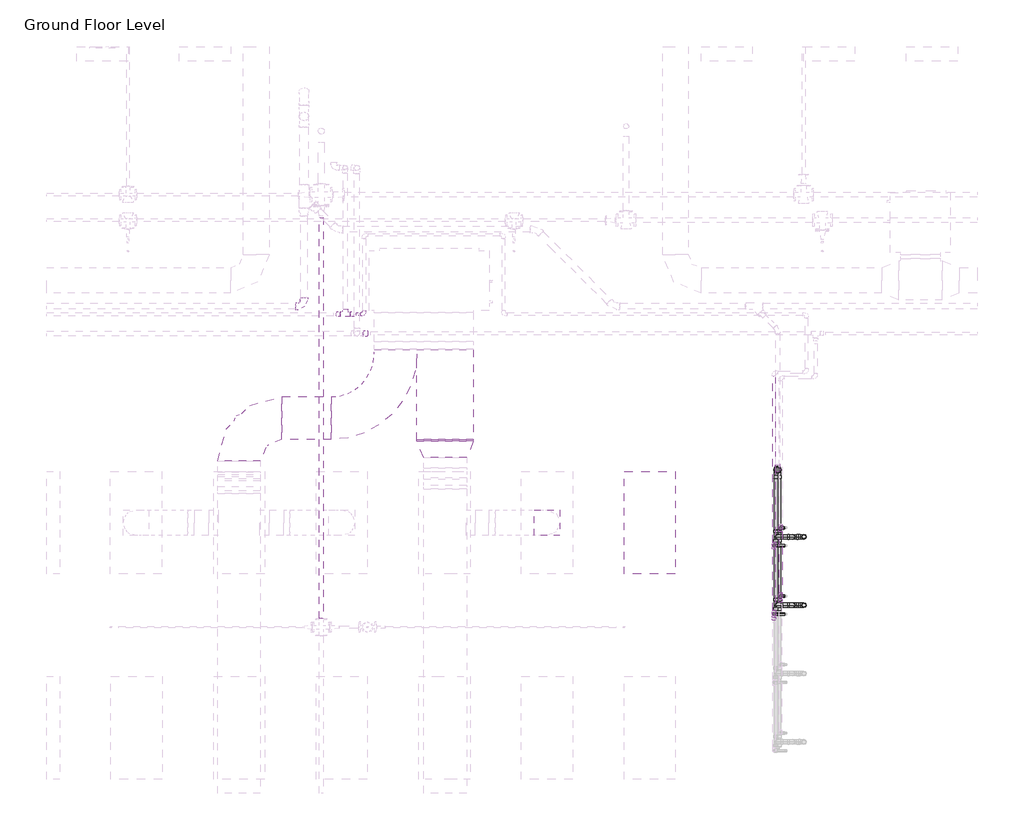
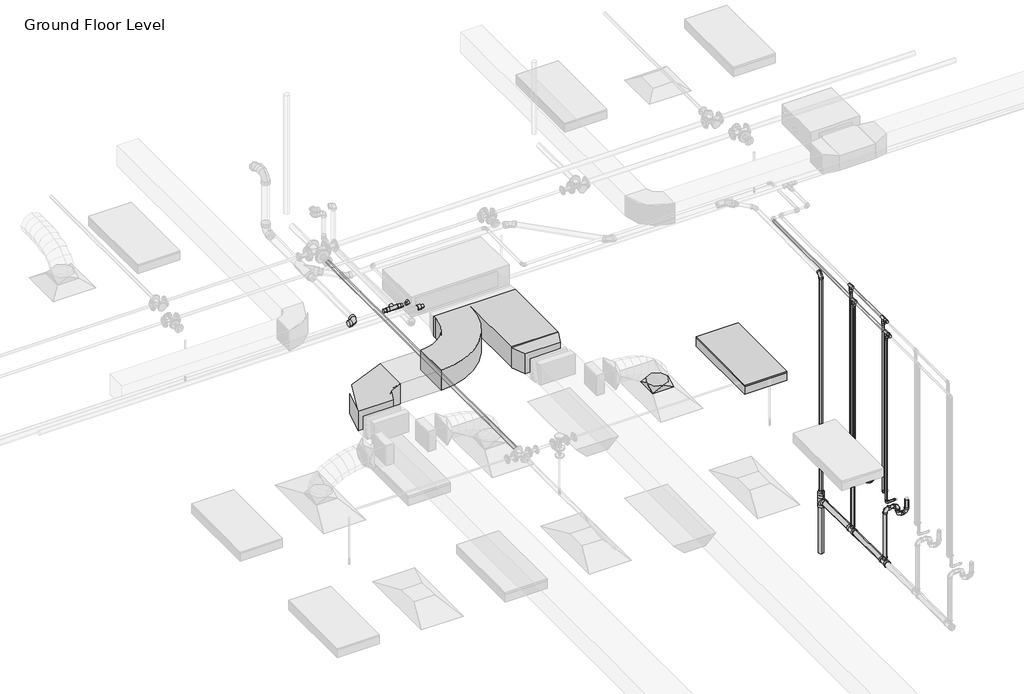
# One storey, part 50 of 68: 33 pipe fittings, 29 pipe segments, 4 duct fittings, 2 duct segments, 1 light fixture.
"""IFC4 building model written with IfcOpenShell, lengths in millimetres."""

from ifc_helpers import new_model, si_unit, point, frame, frame_2d, origin, place, context, project, spatial, polyline, circle_curve, trimmed, segment, composite_curve, outline, extrude, transform, mapped, element, save
from components import m_rectangular_elbow_radius_1_w_abe20169, m_rectangular_transition_angle_45_degree_0ac038db, m_rectangular_wye_smooth_radius_standard_737174da, m_rectangular_to_round_transition_angle_45_degree_641efff0, m_troffer_light_parabolic_rectangular1_0600x1200mm_4_lamp_86473d4a, m_bend_pvc_sch_40_dwv_standard_1e7bdcc1, m_bend_pvc_sch_40_dwv_standard_738aab8b, m_bend_pvc_sch_40_dwv_standard_33e831c1, m_reducer_pvc_sch_40_dwv_standard_d6f2da47, m_tee_reducing_sanitary_pvc_sch_40_dwv_standard_21d2848c, m_tee_reducing_sanitary_pvc_sch_40_dwv_standard_b574f8c1, standard_b266ab3f, standard_517a5a8d, standard_72b35c3b, standard_5079833c, standard_bbae78af, standard_a995ec02, standard_e954f56a, standard_e5aa6446, standard_77f9104c

model = new_model("IFC4")

# Units and contexts
model_context = context("Model", 3, world=origin())
ifc_project = project(units=[si_unit("LENGTHUNIT", "METRE", prefix="MILLI")], contexts=[model_context])

# Site, building, storey
site = spatial("IfcSite", under=ifc_project)
building = spatial("IfcBuilding", under=site)
storey = spatial("IfcBuildingStorey", under=building, Name="Ground Floor Level", Elevation=900.0)

# Duct fittings
placement = place(None, origin())
m_rectangular_elbow_radius_1_w_shape = m_rectangular_elbow_radius_1_w_abe20169(model_context)
element("IfcDuctFitting", 1, ObjectType="M_Rectangular Elbow - Radius : 1 W", at=placement, inside=storey, context=model_context, shape_type="MappedRepresentation", body=[
    mapped(m_rectangular_elbow_radius_1_w_shape, transform((-6939.6912607, 12459.4153535, 4107.1399598), x_axis=(-0.9999999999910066, 0.0, 4.2410714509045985e-06), y_axis=(0.0, -1.0, 0.0), z_axis=(4.2410714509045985e-06, 0.0, 0.9999999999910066))),
])
m_rectangular_transition_angle_45_degree_shape = m_rectangular_transition_angle_45_degree_0ac038db(model_context)
element("IfcDuctFitting", 2, ObjectType="M_Rectangular Transition - Angle : 45 Degree", at=placement, inside=storey, context=model_context, shape_type="MappedRepresentation", body=[
    mapped(m_rectangular_transition_angle_45_degree_shape, transform((-4528.6910789, 12192.414605, 4107.133239), x_axis=(0.0, -0.9999999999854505, 5.394345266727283e-06), y_axis=(1.0, 0.0, 0.0), z_axis=(0.0, 5.394345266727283e-06, 0.9999999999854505))),
])
m_rectangular_wye_smooth_radius_standard_shape = m_rectangular_wye_smooth_radius_standard_737174da(model_context)
element("IfcDuctFitting", 3, ObjectType="M_Rectangular Wye - Smooth Radius : Standard", at=placement, inside=storey, context=model_context, shape_type="MappedRepresentation", body=[
    mapped(m_rectangular_wye_smooth_radius_standard_shape, transform((-4653.6910789, 12459.4153535, 4107.1353795), x_axis=(0.0, -0.9999999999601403, -8.928571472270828e-06), y_axis=(1.0, 0.0, 0.0), z_axis=(0.0, -8.928571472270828e-06, 0.9999999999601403))),
])
m_rectangular_to_round_transition_angle_45_degree_shape = m_rectangular_to_round_transition_angle_45_degree_641efff0(model_context)
element("IfcDuctFitting", 4, ObjectType="M_Rectangular to Round Transition - Angle : 45 Degree", at=placement, inside=storey, context=model_context, shape_type="MappedRepresentation", body=[
    mapped(m_rectangular_to_round_transition_angle_45_degree_shape, transform((-3337.2327605, 11235.2153534, 3751.6), x_axis=(0.0, 0.0, 1.0), y_axis=(-1.0, 0.0, 0.0), z_axis=(0.0, -1.0, 0.0))),
])

# Duct segments
element("IfcDuctSegment", 5, ObjectType="Radius Elbows / Taps", at=placement, inside=storey, context=model_context, shape_type="SweptSolid", body=[
    extrude(outline(polyline([(-4859.6910789, 12209.4153535), (-4197.6910789, 12209.4153535), (-4197.6910789, 12192.414605), (-4859.6910789, 12192.414605), (-4859.6910789, 12209.4153535)])), frame((0.0, 0.0, 3957.1331473), z_axis=(0.0, 0.0, 1.0), x_axis=(1.0, 0.0, 0.0)), (0.0, 0.0, 1.0), 300.0),
])
element("IfcDuctSegment", 6, ObjectType="Radius Elbows / Taps", at=placement, inside=storey, context=model_context, shape_type="SweptSolid", body=[
    extrude(outline(polyline([(-5859.6910789, 12709.4153535), (-5859.6910789, 12209.4153535), (-6439.6912607, 12209.4153535), (-6439.6912607, 12709.4153535), (-5859.6910789, 12709.4153535)])), frame((0.0, 0.0, 3957.1353795), z_axis=(0.0, 0.0, 1.0), x_axis=(1.0, 0.0, 0.0)), (0.0, 0.0, 1.0), 300.0),
])

# Light fixture
m_troffer_light_parabolic_rectangular1_0600x1200mm_4_lamp_shape = m_troffer_light_parabolic_rectangular1_0600x1200mm_4_lamp_86473d4a(model_context)
element("IfcLightFixture", 7, ObjectType="M_Troffer Light - Parabolic Rectangular1 : 0600x1200mm(4 Lamp) - 277V 2", at=placement, inside=storey, context=model_context, shape_type="MappedRepresentation", body=[
    mapped(m_troffer_light_parabolic_rectangular1_0600x1200mm_4_lamp_shape, transform((-2196.6986926, 11253.918855, 3650.0), x_axis=(0.0, 1.0, 0.0), y_axis=(-1.0, 0.0, 0.0), z_axis=(0.0, 0.0, 1.0))),
])

# Pipe fittings
m_bend_pvc_sch_40_dwv_standard_shape = m_bend_pvc_sch_40_dwv_standard_1e7bdcc1(model_context)
element("IfcPipeFitting", 8, ObjectType="M_Bend - PVC - Sch 40 - DWV : Standard", at=placement, inside=storey, context=model_context, shape_type="MappedRepresentation", body=[
    mapped(m_bend_pvc_sch_40_dwv_standard_shape, transform((-642.2357232, 11855.5503966, 4093.773994), x_axis=(0.0, 0.0, 1.0), y_axis=(0.0, 1.0, 0.0), z_axis=(-1.0, 0.0, 0.0))),
])
m_bend_pvc_sch_40_dwv_standard_2_shape = m_bend_pvc_sch_40_dwv_standard_738aab8b(model_context)
element("IfcPipeFitting", 9, ObjectType="M_Bend - PVC - Sch 40 - DWV : Standard", at=placement, inside=storey, context=model_context, shape_type="MappedRepresentation", body=[
    mapped(m_bend_pvc_sch_40_dwv_standard_2_shape, transform((-463.6645494, 10271.1979139, 1370.0), x_axis=(-1.0, 0.0, 0.0), y_axis=(0.0, 0.0, 1.0), z_axis=(0.0, 1.0, 0.0))),
])
element("IfcPipeFitting", 10, ObjectType="M_Bend - PVC - Sch 40 - DWV : Standard", at=placement, inside=storey, context=model_context, shape_type="MappedRepresentation", body=[
    mapped(m_bend_pvc_sch_40_dwv_standard_2_shape, transform((-463.6645494, 10271.1979139, 1510.0), x_axis=(0.0, 0.0, 1.0), y_axis=(-1.0, 0.0, 0.0), z_axis=(0.0, -1.0, 0.0))),
])
element("IfcPipeFitting", 11, ObjectType="M_Bend - PVC - Sch 40 - DWV : Standard", at=placement, inside=storey, context=model_context, shape_type="MappedRepresentation", body=[
    mapped(m_bend_pvc_sch_40_dwv_standard_2_shape, transform((-463.6645494, 11071.1979139, 1370.0), x_axis=(-1.0, 0.0, 0.0), y_axis=(0.0, 0.0, 1.0), z_axis=(0.0, 1.0, 0.0))),
])
element("IfcPipeFitting", 12, ObjectType="M_Bend - PVC - Sch 40 - DWV : Standard", at=placement, inside=storey, context=model_context, shape_type="MappedRepresentation", body=[
    mapped(m_bend_pvc_sch_40_dwv_standard_2_shape, transform((-463.6645494, 11071.1979139, 1510.0), x_axis=(0.0, 0.0, 1.0), y_axis=(-1.0, 0.0, 0.0), z_axis=(0.0, -1.0, 0.0))),
])
element("IfcPipeFitting", 13, ObjectType="M_Bend - PVC - Sch 40 - DWV : Standard", at=placement, inside=storey, context=model_context, shape_type="MappedRepresentation", body=[
    mapped(m_bend_pvc_sch_40_dwv_standard_2_shape, transform((-333.6645494, 10271.1979139, 1370.0), x_axis=(1.0, 0.0, 0.0), y_axis=(0.0, 0.0, 1.0), z_axis=(0.0, -1.0, 0.0))),
])
element("IfcPipeFitting", 14, ObjectType="M_Bend - PVC - Sch 40 - DWV : Standard", at=placement, inside=storey, context=model_context, shape_type="MappedRepresentation", body=[
    mapped(m_bend_pvc_sch_40_dwv_standard_2_shape, transform((-333.6645494, 11071.1979139, 1370.0), x_axis=(1.0, 0.0, 0.0), y_axis=(0.0, 0.0, 1.0), z_axis=(0.0, -1.0, 0.0))),
])
element("IfcPipeFitting", 15, ObjectType="M_Bend - PVC - Sch 40 - DWV : Standard", at=placement, inside=storey, context=model_context, shape_type="MappedRepresentation", body=[
    mapped(m_bend_pvc_sch_40_dwv_standard_2_shape, transform((-642.2301761, 10271.1979139, 1510.0), x_axis=(-1.0, 0.0, 0.0), y_axis=(0.0, 0.0, -1.0), z_axis=(0.0, -1.0, 0.0))),
])
element("IfcPipeFitting", 16, ObjectType="M_Bend - PVC - Sch 40 - DWV : Standard", at=placement, inside=storey, context=model_context, shape_type="MappedRepresentation", body=[
    mapped(m_bend_pvc_sch_40_dwv_standard_2_shape, transform((-642.2301761, 11071.1979139, 1510.0), x_axis=(-1.0, 0.0, 0.0), y_axis=(0.0, 0.0, -1.0), z_axis=(0.0, -1.0, 0.0))),
])
m_bend_pvc_sch_40_dwv_standard_3_shape = m_bend_pvc_sch_40_dwv_standard_33e831c1(model_context)
element("IfcPipeFitting", 17, ObjectType="M_Bend - PVC - Sch 40 - DWV : Standard", at=placement, inside=storey, context=model_context, shape_type="MappedRepresentation", body=[
    mapped(m_bend_pvc_sch_40_dwv_standard_3_shape, transform((-6179.174125, 13768.8048932, 4156.9282537), x_axis=(0.9999500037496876, 0.0, 0.00999950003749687), y_axis=(-9.998500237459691e-05, 0.999950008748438, 0.009998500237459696), z_axis=(-0.009999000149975, -0.009999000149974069, 0.9999000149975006))),
])
m_reducer_pvc_sch_40_dwv_standard_shape = m_reducer_pvc_sch_40_dwv_standard_d6f2da47(model_context)
element("IfcPipeFitting", 18, ObjectType="M_Reducer - PVC - Sch 40 - DWV : Standard", at=placement, inside=storey, context=model_context, shape_type="MappedRepresentation", body=[
    mapped(m_reducer_pvc_sch_40_dwv_standard_shape, transform((-642.2301761, 11855.5442121, 776.9463422), x_axis=(0.0, 0.0, 1.0), y_axis=(0.0, 1.0, 0.0), z_axis=(-1.0, 0.0, 0.0))),
])
m_tee_reducing_sanitary_pvc_sch_40_dwv_standard_shape = m_tee_reducing_sanitary_pvc_sch_40_dwv_standard_21d2848c(model_context)
element("IfcPipeFitting", 19, ObjectType="M_Tee Reducing Sanitary - PVC - Sch 40 - DWV : Standard", at=placement, inside=storey, context=model_context, shape_type="MappedRepresentation", body=[
    mapped(m_tee_reducing_sanitary_pvc_sch_40_dwv_standard_shape, transform((-642.2301761, 10271.1979139, 711.098886), x_axis=(0.0, -0.9999500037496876, 0.009999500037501), y_axis=(0.0, -0.009999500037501, -0.9999500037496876), z_axis=(1.0, 0.0, 0.0))),
])
element("IfcPipeFitting", 20, ObjectType="M_Tee Reducing Sanitary - PVC - Sch 40 - DWV : Standard", at=placement, inside=storey, context=model_context, shape_type="MappedRepresentation", body=[
    mapped(m_tee_reducing_sanitary_pvc_sch_40_dwv_standard_shape, transform((-642.2301761, 11071.1979139, 703.098886), x_axis=(0.0, -0.9999500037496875, 0.00999950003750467), y_axis=(0.0, -0.00999950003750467, -0.9999500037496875), z_axis=(1.0, 0.0, 0.0))),
])
m_tee_reducing_sanitary_pvc_sch_40_dwv_standard_2_shape = m_tee_reducing_sanitary_pvc_sch_40_dwv_standard_b574f8c1(model_context)
element("IfcPipeFitting", 21, ObjectType="M_Tee Reducing Sanitary - PVC - Sch 40 - DWV : Standard", at=placement, inside=storey, context=model_context, shape_type="MappedRepresentation", body=[
    mapped(m_tee_reducing_sanitary_pvc_sch_40_dwv_standard_2_shape, transform((-642.2301761, 11855.5442121, 695.255423), x_axis=(0.0, 0.0, 1.0), y_axis=(0.0, 1.0, 0.0), z_axis=(-1.0, 0.0, 0.0))),
])
standard_shape = standard_b266ab3f(model_context)
element("IfcPipeFitting", 22, ObjectType="M_Elbow - CPVC - Sch 40 : Standard", at=placement, inside=storey, context=model_context, shape_type="MappedRepresentation", body=[
    mapped(standard_shape, transform((-607.2327605, 11175.5128345, 1690.0), x_axis=(-1.0, 0.0, 0.0), y_axis=(0.0, 0.0, 1.0), z_axis=(0.0, 1.0, 0.0))),
])
element("IfcPipeFitting", 23, ObjectType="M_Elbow - CPVC - Sch 40 : Standard", at=placement, inside=storey, context=model_context, shape_type="MappedRepresentation", body=[
    mapped(standard_shape, transform((-607.2327605, 10375.5128345, 1690.0), x_axis=(0.0, 0.0, -1.0), y_axis=(1.0, 0.0, 0.0), z_axis=(0.0, -1.0, 0.0))),
])
element("IfcPipeFitting", 24, ObjectType="M_Elbow - CPVC - Sch 40 : Standard", at=placement, inside=storey, context=model_context, shape_type="MappedRepresentation", body=[
    mapped(standard_shape, transform((-684.0671674, 10166.8829933, 1690.0), x_axis=(-1.0, 0.0, 0.0), y_axis=(0.0, 0.0, 1.0), z_axis=(0.0, 1.0, 0.0))),
])
element("IfcPipeFitting", 25, ObjectType="M_Elbow - CPVC - Sch 40 : Standard", at=placement, inside=storey, context=model_context, shape_type="MappedRepresentation", body=[
    mapped(standard_shape, transform((-684.0671674, 10966.8829933, 1690.0), x_axis=(-1.0, 0.0, 0.0), y_axis=(0.0, 0.0, 1.0), z_axis=(0.0, 1.0, 0.0))),
])
standard_2_shape = standard_517a5a8d(model_context)
element("IfcPipeFitting", 26, ObjectType="M_Elbow - CPVC - Sch 40 : Standard", at=placement, inside=storey, context=model_context, shape_type="MappedRepresentation", body=[
    mapped(standard_2_shape, transform((-5476.1871015, 13675.2153534, 4250.0), x_axis=(1.0, 0.0, 0.0), y_axis=(0.0, 1.0, 0.0), z_axis=(0.0, 0.0, 1.0))),
])
standard_3_shape = standard_72b35c3b(model_context)
element("IfcPipeFitting", 27, ObjectType="M_Tee - CPVC - Sch 40 : Standard", at=placement, inside=storey, context=model_context, shape_type="MappedRepresentation", body=[
    mapped(standard_3_shape, transform((-607.2327605, 11175.5128345, 4315.0), x_axis=(0.0, -1.0, 0.0), y_axis=(0.0, 0.0, 1.0), z_axis=(-1.0, 0.0, 0.0))),
])
element("IfcPipeFitting", 28, ObjectType="M_Tee - CPVC - Sch 40 : Standard", at=placement, inside=storey, context=model_context, shape_type="MappedRepresentation", body=[
    mapped(standard_3_shape, transform((-607.2327605, 10375.5128345, 4315.0), x_axis=(0.0, 1.0, 0.0), y_axis=(0.0, 0.0, 1.0), z_axis=(1.0, 0.0, 0.0))),
])
element("IfcPipeFitting", 29, ObjectType="M_Tee - CPVC - Sch 40 : Standard", at=placement, inside=storey, context=model_context, shape_type="MappedRepresentation", body=[
    mapped(standard_3_shape, transform((-684.0671674, 10166.8829933, 4250.0), x_axis=(0.0, -1.0, 0.0), y_axis=(0.0, 0.0, 1.0), z_axis=(-1.0, 0.0, 0.0))),
])
element("IfcPipeFitting", 30, ObjectType="M_Tee - CPVC - Sch 40 : Standard", at=placement, inside=storey, context=model_context, shape_type="MappedRepresentation", body=[
    mapped(standard_3_shape, transform((-684.0671674, 10966.8829933, 4250.0), x_axis=(0.0, -1.0, 0.0), y_axis=(0.0, 0.0, 1.0), z_axis=(-1.0, 0.0, 0.0))),
])
standard_4_shape = standard_5079833c(model_context)
element("IfcPipeFitting", 31, ObjectType="M_Coupling Reducing - CPVC - Sch 40 : Standard", at=placement, inside=storey, context=model_context, shape_type="MappedRepresentation", body=[
    mapped(standard_4_shape, transform((-5486.9943636, 13449.9865561, 4315.0), x_axis=(1.0, 0.0, 0.0), y_axis=(0.0, 1.0, 0.0), z_axis=(0.0, 0.0, 1.0))),
])
standard_5_shape = standard_bbae78af(model_context)
element("IfcPipeFitting", 32, ObjectType="M_Tee - CPVC - Sch 40 : Standard", at=placement, inside=storey, context=model_context, shape_type="MappedRepresentation", body=[
    mapped(standard_5_shape, transform((-5698.3060147, 13675.2153534, 4250.0), x_axis=(1.0, 0.0, 0.0), y_axis=(0.0, -1.0, 0.0), z_axis=(0.0, 0.0, -1.0))),
])
standard_6_shape = standard_a995ec02(model_context)
element("IfcPipeFitting", 33, ObjectType="M_Coupling Reducing - CPVC - Sch 40 : Standard", at=placement, inside=storey, context=model_context, shape_type="MappedRepresentation", body=[
    mapped(standard_6_shape, transform((-5757.0562147, 13675.2153534, 4250.0), x_axis=(-1.0, 0.0, 0.0), y_axis=(0.0, -1.0, 0.0), z_axis=(0.0, 0.0, 1.0))),
])
standard_7_shape = standard_e954f56a(model_context)
element("IfcPipeFitting", 34, ObjectType="M_Coupling Reducing - CPVC - Sch 40 : Standard", at=placement, inside=storey, context=model_context, shape_type="MappedRepresentation", body=[
    mapped(standard_7_shape, transform((-607.2327605, 10335.8126345, 4315.0), x_axis=(0.0, -1.0, 0.0), y_axis=(1.0, 0.0, 0.0), z_axis=(0.0, 0.0, 1.0))),
])
element("IfcPipeFitting", 35, ObjectType="M_Coupling Reducing - CPVC - Sch 40 : Standard", at=placement, inside=storey, context=model_context, shape_type="MappedRepresentation", body=[
    mapped(standard_7_shape, transform((-607.2327605, 10375.5128345, 4275.2998), x_axis=(0.0, 0.0, -1.0), y_axis=(0.0, -1.0, 0.0), z_axis=(-1.0, 0.0, 0.0))),
])
element("IfcPipeFitting", 36, ObjectType="M_Coupling Reducing - CPVC - Sch 40 : Standard", at=placement, inside=storey, context=model_context, shape_type="MappedRepresentation", body=[
    mapped(standard_7_shape, transform((-684.0671674, 10166.8829933, 4210.2998), x_axis=(0.0, 0.0, -1.0), y_axis=(-1.0, 0.0, 0.0), z_axis=(0.0, 1.0, 0.0))),
])
element("IfcPipeFitting", 37, ObjectType="M_Coupling Reducing - CPVC - Sch 40 : Standard", at=placement, inside=storey, context=model_context, shape_type="MappedRepresentation", body=[
    mapped(standard_7_shape, transform((-684.0671674, 10966.8829933, 4210.2998), x_axis=(0.0, 0.0, -1.0), y_axis=(-1.0, 0.0, 0.0), z_axis=(0.0, 1.0, 0.0))),
])
standard_8_shape = standard_e5aa6446(model_context)
element("IfcPipeFitting", 38, ObjectType="M_Coupling Reducing - CPVC - Sch 40 : Standard", at=placement, inside=storey, context=model_context, shape_type="MappedRepresentation", body=[
    mapped(standard_8_shape, transform((-607.2327605, 11175.5128345, 4275.2998), x_axis=(0.0, 0.0, -1.0), y_axis=(1.0, 0.0, 0.0), z_axis=(0.0, -1.0, 0.0))),
])
element("IfcPipeFitting", 39, ObjectType="M_Coupling Reducing - CPVC - Sch 40 : Standard", at=placement, inside=storey, context=model_context, shape_type="MappedRepresentation", body=[
    mapped(standard_8_shape, transform((-684.0671674, 10127.1827933, 4250.0), x_axis=(0.0, -1.0, 0.0), y_axis=(1.0, 0.0, 0.0), z_axis=(0.0, 0.0, 1.0))),
])
standard_9_shape = standard_77f9104c(model_context)
element("IfcPipeFitting", 40, ObjectType="M_Coupling Reducing - CPVC - Sch 40 : Standard", at=placement, inside=storey, context=model_context, shape_type="MappedRepresentation", body=[
    mapped(standard_9_shape, transform((-5639.5558147, 13675.2153534, 4250.0), x_axis=(1.0, 0.0, 0.0), y_axis=(0.0, 1.0, 0.0), z_axis=(0.0, 0.0, 1.0))),
])

# Pipe segments
element("IfcPipeSegment", 41, ObjectType="CPVC", at=placement, inside=storey, context=model_context, shape_type="SweptSolid", body=[
    extrude(outline(composite_curve([segment(trimmed(circle_curve(frame_2d((13449.9865561, 4315.0)), 30.1625), [point((13419.8240561, 4315.0))], [point((13449.9865561, 4345.1625))], False, "CARTESIAN"), True, "CONTINUOUS"), segment(trimmed(circle_curve(frame_2d((13449.9865561, 4315.0)), 30.1625), [point((13449.9865561, 4345.1625))], [point((13480.1490561, 4315.0))], False, "CARTESIAN"), True, "CONTINUOUS"), segment(trimmed(circle_curve(frame_2d((13449.9865561, 4315.0)), 30.1625), [point((13480.1490561, 4315.0))], [point((13449.9865561, 4284.8375))], False, "CARTESIAN"), True, "CONTINUOUS"), segment(trimmed(circle_curve(frame_2d((13449.9865561, 4315.0)), 30.1625), [point((13449.9865561, 4284.8375))], [point((13419.8240561, 4315.0))], False, "CARTESIAN"), True, "CONTINUOUS")], self_intersect=False)), frame((-5494.1963756, 0.0, 0.0), z_axis=(1.0, 0.0, 0.0), x_axis=(0.0, 1.0, 0.0)), (0.0, 0.0, 1.0), 7.202012),
])
element("IfcPipeSegment", 42, ObjectType="CPVC", at=placement, inside=storey, context=model_context, shape_type="SweptSolid", body=[
    extrude(outline(composite_curve([segment(trimmed(circle_curve(frame_2d((11175.5128345, 1690.0)), 13.335), [point((11188.8478345, 1690.0))], [point((11175.5128345, 1676.665))], False, "CARTESIAN"), True, "CONTINUOUS"), segment(trimmed(circle_curve(frame_2d((11175.5128345, 1690.0)), 13.335), [point((11175.5128345, 1676.665))], [point((11162.1778345, 1690.0))], False, "CARTESIAN"), True, "CONTINUOUS"), segment(trimmed(circle_curve(frame_2d((11175.5128345, 1690.0)), 13.335), [point((11162.1778345, 1690.0))], [point((11175.5128345, 1703.335))], False, "CARTESIAN"), True, "CONTINUOUS"), segment(trimmed(circle_curve(frame_2d((11175.5128345, 1690.0)), 13.335), [point((11175.5128345, 1703.335))], [point((11188.8478345, 1690.0))], False, "CARTESIAN"), True, "CONTINUOUS")], self_intersect=False)), frame((-571.9077105, 0.0, 0.0), z_axis=(1.0, 0.0, 0.0), x_axis=(0.0, 1.0, 0.0)), (0.0, 0.0, 1.0), 14.67495),
])
element("IfcPipeSegment", 43, ObjectType="CPVC", at=placement, inside=storey, context=model_context, shape_type="SweptSolid", body=[
    extrude(outline(composite_curve([segment(trimmed(circle_curve(frame_2d((-607.2327605, 11175.5128345)), 13.335), [point((-620.5677605, 11175.5128345))], [point((-607.2327605, 11188.8478345))], False, "CARTESIAN"), True, "CONTINUOUS"), segment(trimmed(circle_curve(frame_2d((-607.2327605, 11175.5128345)), 13.335), [point((-607.2327605, 11188.8478345))], [point((-593.8977605, 11175.5128345))], False, "CARTESIAN"), True, "CONTINUOUS"), segment(trimmed(circle_curve(frame_2d((-607.2327605, 11175.5128345)), 13.335), [point((-593.8977605, 11175.5128345))], [point((-607.2327605, 11162.1778345))], False, "CARTESIAN"), True, "CONTINUOUS"), segment(trimmed(circle_curve(frame_2d((-607.2327605, 11175.5128345)), 13.335), [point((-607.2327605, 11162.1778345))], [point((-620.5677605, 11175.5128345))], False, "CARTESIAN"), True, "CONTINUOUS")], self_intersect=False)), frame((0.0, 0.0, 1725.32505), z_axis=(0.0, 0.0, 1.0), x_axis=(1.0, 0.0, 0.0)), (0.0, 0.0, 1.0), 2492.82475),
])
element("IfcPipeSegment", 44, ObjectType="CPVC", at=placement, inside=storey, context=model_context, shape_type="SweptSolid", body=[
    extrude(outline(composite_curve([segment(trimmed(circle_curve(frame_2d((10375.5128345, 1690.0)), 13.335), [point((10362.1778345, 1690.0))], [point((10375.5128345, 1703.335))], False, "CARTESIAN"), True, "CONTINUOUS"), segment(trimmed(circle_curve(frame_2d((10375.5128345, 1690.0)), 13.335), [point((10375.5128345, 1703.335))], [point((10388.8478345, 1690.0))], False, "CARTESIAN"), True, "CONTINUOUS"), segment(trimmed(circle_curve(frame_2d((10375.5128345, 1690.0)), 13.335), [point((10388.8478345, 1690.0))], [point((10375.5128345, 1676.665))], False, "CARTESIAN"), True, "CONTINUOUS"), segment(trimmed(circle_curve(frame_2d((10375.5128345, 1690.0)), 13.335), [point((10375.5128345, 1676.665))], [point((10362.1778345, 1690.0))], False, "CARTESIAN"), True, "CONTINUOUS")], self_intersect=False)), frame((-571.9077105, 0.0, 0.0), z_axis=(1.0, 0.0, 0.0), x_axis=(0.0, 1.0, 0.0)), (0.0, 0.0, 1.0), 14.67495),
])
element("IfcPipeSegment", 45, ObjectType="CPVC", at=placement, inside=storey, context=model_context, shape_type="SweptSolid", body=[
    extrude(outline(composite_curve([segment(trimmed(circle_curve(frame_2d((-607.2327605, 10375.5128345)), 13.335), [point((-593.8977605, 10375.5128345))], [point((-607.2327605, 10362.1778345))], False, "CARTESIAN"), True, "CONTINUOUS"), segment(trimmed(circle_curve(frame_2d((-607.2327605, 10375.5128345)), 13.335), [point((-607.2327605, 10362.1778345))], [point((-620.5677605, 10375.5128345))], False, "CARTESIAN"), True, "CONTINUOUS"), segment(trimmed(circle_curve(frame_2d((-607.2327605, 10375.5128345)), 13.335), [point((-620.5677605, 10375.5128345))], [point((-607.2327605, 10388.8478345))], False, "CARTESIAN"), True, "CONTINUOUS"), segment(trimmed(circle_curve(frame_2d((-607.2327605, 10375.5128345)), 13.335), [point((-607.2327605, 10388.8478345))], [point((-593.8977605, 10375.5128345))], False, "CARTESIAN"), True, "CONTINUOUS")], self_intersect=False)), frame((0.0, 0.0, 1725.32505), z_axis=(0.0, 0.0, 1.0), x_axis=(1.0, 0.0, 0.0)), (0.0, 0.0, 1.0), 2492.82475),
])
element("IfcPipeSegment", 46, ObjectType="CPVC", at=placement, inside=storey, context=model_context, shape_type="SweptSolid", body=[
    extrude(outline(composite_curve([segment(trimmed(circle_curve(frame_2d((4315.0, -607.2327605)), 16.7005), [point((4315.0, -623.9332605))], [point((4298.2995, -607.2327605))], False, "CARTESIAN"), True, "CONTINUOUS"), segment(trimmed(circle_curve(frame_2d((4315.0, -607.2327605)), 16.7005), [point((4298.2995, -607.2327605))], [point((4315.0, -590.5322605))], False, "CARTESIAN"), True, "CONTINUOUS"), segment(trimmed(circle_curve(frame_2d((4315.0, -607.2327605)), 16.7005), [point((4315.0, -590.5322605))], [point((4331.7005, -607.2327605))], False, "CARTESIAN"), True, "CONTINUOUS"), segment(trimmed(circle_curve(frame_2d((4315.0, -607.2327605)), 16.7005), [point((4331.7005, -607.2327605))], [point((4315.0, -623.9332605))], False, "CARTESIAN"), True, "CONTINUOUS")], self_intersect=False)), frame((0.0, 10415.2130345, 0.0), z_axis=(0.0, 1.0, 0.0), x_axis=(0.0, 0.0, 1.0)), (0.0, 0.0, 1.0), 720.5996),
])
element("IfcPipeSegment", 47, ObjectType="CPVC", at=placement, inside=storey, context=model_context, shape_type="SweptSolid", body=[
    extrude(outline(composite_curve([segment(trimmed(circle_curve(frame_2d((10166.8829933, 1690.0)), 13.335), [point((10180.2179933, 1690.0))], [point((10166.8829933, 1676.665))], False, "CARTESIAN"), True, "CONTINUOUS"), segment(trimmed(circle_curve(frame_2d((10166.8829933, 1690.0)), 13.335), [point((10166.8829933, 1676.665))], [point((10153.5479933, 1690.0))], False, "CARTESIAN"), True, "CONTINUOUS"), segment(trimmed(circle_curve(frame_2d((10166.8829933, 1690.0)), 13.335), [point((10153.5479933, 1690.0))], [point((10166.8829933, 1703.335))], False, "CARTESIAN"), True, "CONTINUOUS"), segment(trimmed(circle_curve(frame_2d((10166.8829933, 1690.0)), 13.335), [point((10166.8829933, 1703.335))], [point((10180.2179933, 1690.0))], False, "CARTESIAN"), True, "CONTINUOUS")], self_intersect=False)), frame((-648.7421174, 0.0, 0.0), z_axis=(1.0, 0.0, 0.0), x_axis=(0.0, 1.0, 0.0)), (0.0, 0.0, 1.0), 91.5093569),
])
element("IfcPipeSegment", 48, ObjectType="CPVC", at=placement, inside=storey, context=model_context, shape_type="SweptSolid", body=[
    extrude(outline(composite_curve([segment(trimmed(circle_curve(frame_2d((-684.0671674, 10166.8829933)), 13.335), [point((-697.4021674, 10166.8829933))], [point((-684.0671674, 10180.2179933))], False, "CARTESIAN"), True, "CONTINUOUS"), segment(trimmed(circle_curve(frame_2d((-684.0671674, 10166.8829933)), 13.335), [point((-684.0671674, 10180.2179933))], [point((-670.7321674, 10166.8829933))], False, "CARTESIAN"), True, "CONTINUOUS"), segment(trimmed(circle_curve(frame_2d((-684.0671674, 10166.8829933)), 13.335), [point((-670.7321674, 10166.8829933))], [point((-684.0671674, 10153.5479933))], False, "CARTESIAN"), True, "CONTINUOUS"), segment(trimmed(circle_curve(frame_2d((-684.0671674, 10166.8829933)), 13.335), [point((-684.0671674, 10153.5479933))], [point((-697.4021674, 10166.8829933))], False, "CARTESIAN"), True, "CONTINUOUS")], self_intersect=False)), frame((0.0, 0.0, 1725.32505), z_axis=(0.0, 0.0, 1.0), x_axis=(1.0, 0.0, 0.0)), (0.0, 0.0, 1.0), 2427.82475),
])
element("IfcPipeSegment", 49, ObjectType="CPVC", at=placement, inside=storey, context=model_context, shape_type="SweptSolid", body=[
    extrude(outline(composite_curve([segment(trimmed(circle_curve(frame_2d((10966.8829933, 1690.0)), 13.335), [point((10980.2179933, 1690.0))], [point((10966.8829933, 1676.665))], False, "CARTESIAN"), True, "CONTINUOUS"), segment(trimmed(circle_curve(frame_2d((10966.8829933, 1690.0)), 13.335), [point((10966.8829933, 1676.665))], [point((10953.5479933, 1690.0))], False, "CARTESIAN"), True, "CONTINUOUS"), segment(trimmed(circle_curve(frame_2d((10966.8829933, 1690.0)), 13.335), [point((10953.5479933, 1690.0))], [point((10966.8829933, 1703.335))], False, "CARTESIAN"), True, "CONTINUOUS"), segment(trimmed(circle_curve(frame_2d((10966.8829933, 1690.0)), 13.335), [point((10966.8829933, 1703.335))], [point((10980.2179933, 1690.0))], False, "CARTESIAN"), True, "CONTINUOUS")], self_intersect=False)), frame((-648.7421174, 0.0, 0.0), z_axis=(1.0, 0.0, 0.0), x_axis=(0.0, 1.0, 0.0)), (0.0, 0.0, 1.0), 91.5093569),
])
element("IfcPipeSegment", 50, ObjectType="CPVC", at=placement, inside=storey, context=model_context, shape_type="SweptSolid", body=[
    extrude(outline(composite_curve([segment(trimmed(circle_curve(frame_2d((-684.0671674, 10966.8829933)), 13.335), [point((-697.4021674, 10966.8829933))], [point((-684.0671674, 10980.2179933))], False, "CARTESIAN"), True, "CONTINUOUS"), segment(trimmed(circle_curve(frame_2d((-684.0671674, 10966.8829933)), 13.335), [point((-684.0671674, 10980.2179933))], [point((-670.7321674, 10966.8829933))], False, "CARTESIAN"), True, "CONTINUOUS"), segment(trimmed(circle_curve(frame_2d((-684.0671674, 10966.8829933)), 13.335), [point((-670.7321674, 10966.8829933))], [point((-684.0671674, 10953.5479933))], False, "CARTESIAN"), True, "CONTINUOUS"), segment(trimmed(circle_curve(frame_2d((-684.0671674, 10966.8829933)), 13.335), [point((-684.0671674, 10953.5479933))], [point((-697.4021674, 10966.8829933))], False, "CARTESIAN"), True, "CONTINUOUS")], self_intersect=False)), frame((0.0, 0.0, 1725.32505), z_axis=(0.0, 0.0, 1.0), x_axis=(1.0, 0.0, 0.0)), (0.0, 0.0, 1.0), 2427.82475),
])
element("IfcPipeSegment", 51, ObjectType="CPVC", at=placement, inside=storey, context=model_context, shape_type="SweptSolid", body=[
    extrude(outline(composite_curve([segment(trimmed(circle_curve(frame_2d((4250.0, -684.0671674)), 16.7005), [point((4250.0, -667.3666674))], [point((4266.7005, -684.0671674))], False, "CARTESIAN"), True, "CONTINUOUS"), segment(trimmed(circle_curve(frame_2d((4250.0, -684.0671674)), 16.7005), [point((4266.7005, -684.0671674))], [point((4250.0, -700.7676674))], False, "CARTESIAN"), True, "CONTINUOUS"), segment(trimmed(circle_curve(frame_2d((4250.0, -684.0671674)), 16.7005), [point((4250.0, -700.7676674))], [point((4233.2995, -684.0671674))], False, "CARTESIAN"), True, "CONTINUOUS"), segment(trimmed(circle_curve(frame_2d((4250.0, -684.0671674)), 16.7005), [point((4233.2995, -684.0671674))], [point((4250.0, -667.3666674))], False, "CARTESIAN"), True, "CONTINUOUS")], self_intersect=False)), frame((0.0, 11006.5831933, 0.0), z_axis=(0.0, 1.0, 0.0), x_axis=(0.0, 0.0, 1.0)), (0.0, 0.0, 1.0), 1945.3696101),
])
element("IfcPipeSegment", 52, ObjectType="CPVC", at=placement, inside=storey, context=model_context, shape_type="SweptSolid", body=[
    extrude(outline(composite_curve([segment(trimmed(circle_curve(frame_2d((4250.0, -684.0671674)), 16.7005), [point((4250.0, -667.3666674))], [point((4266.7005, -684.0671674))], False, "CARTESIAN"), True, "CONTINUOUS"), segment(trimmed(circle_curve(frame_2d((4250.0, -684.0671674)), 16.7005), [point((4266.7005, -684.0671674))], [point((4250.0, -700.7676674))], False, "CARTESIAN"), True, "CONTINUOUS"), segment(trimmed(circle_curve(frame_2d((4250.0, -684.0671674)), 16.7005), [point((4250.0, -700.7676674))], [point((4233.2995, -684.0671674))], False, "CARTESIAN"), True, "CONTINUOUS"), segment(trimmed(circle_curve(frame_2d((4250.0, -684.0671674)), 16.7005), [point((4233.2995, -684.0671674))], [point((4250.0, -667.3666674))], False, "CARTESIAN"), True, "CONTINUOUS")], self_intersect=False)), frame((0.0, 10206.5831933, 0.0), z_axis=(0.0, 1.0, 0.0), x_axis=(0.0, 0.0, 1.0)), (0.0, 0.0, 1.0), 720.5996),
])
element("IfcPipeSegment", 53, ObjectType="CPVC", at=placement, inside=storey, context=model_context, shape_type="SweptSolid", body=[
    extrude(outline(composite_curve([segment(trimmed(circle_curve(frame_2d((13675.2153534, 4250.0)), 16.7005), [point((13658.5148534, 4250.0))], [point((13675.2153534, 4266.7005))], False, "CARTESIAN"), True, "CONTINUOUS"), segment(trimmed(circle_curve(frame_2d((13675.2153534, 4250.0)), 16.7005), [point((13675.2153534, 4266.7005))], [point((13691.9158534, 4250.0))], False, "CARTESIAN"), True, "CONTINUOUS"), segment(trimmed(circle_curve(frame_2d((13675.2153534, 4250.0)), 16.7005), [point((13691.9158534, 4250.0))], [point((13675.2153534, 4233.2995))], False, "CARTESIAN"), True, "CONTINUOUS"), segment(trimmed(circle_curve(frame_2d((13675.2153534, 4250.0)), 16.7005), [point((13675.2153534, 4233.2995))], [point((13658.5148534, 4250.0))], False, "CARTESIAN"), True, "CONTINUOUS")], self_intersect=False)), frame((-5567.3569397, 0.0, 0.0), z_axis=(1.0, 0.0, 0.0), x_axis=(0.0, 1.0, 0.0)), (0.0, 0.0, 1.0), 47.9072882),
])
element("IfcPipeSegment", 54, ObjectType="PVC - DWV", at=placement, inside=storey, context=model_context, shape_type="SweptSolid", body=[
    extrude(outline(composite_curve([segment(trimmed(circle_curve(frame_2d((0.0, -36.5125)), 36.5125), [point((36.5125, -36.5125))], [point((0.0, -73.025))], False, "CARTESIAN"), True, "CONTINUOUS"), segment(trimmed(circle_curve(frame_2d((0.0, -36.5125)), 36.5125), [point((0.0, -73.025))], [point((-36.5125, -36.5125))], False, "CARTESIAN"), True, "CONTINUOUS"), segment(trimmed(circle_curve(frame_2d((0.0, -36.5125)), 36.5125), [point((-36.5125, -36.5125))], [point((0.0, 0.0))], False, "CARTESIAN"), True, "CONTINUOUS"), segment(trimmed(circle_curve(frame_2d((0.0, -36.5125)), 36.5125), [point((0.0, 0.0))], [point((36.5125, -36.5125))], False, "CARTESIAN"), True, "CONTINUOUS")], self_intersect=False)), frame((-642.2301761, 11755.9463482, 732.7657272), z_axis=(0.0, -0.9999500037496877, 0.009999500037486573), x_axis=(1.0, 0.0, 0.0)), (0.0, 0.0, 1.0), 605.3544271),
])
element("IfcPipeSegment", 55, ObjectType="PVC - DWV", at=placement, inside=storey, context=model_context, shape_type="SweptSolid", body=[
    extrude(outline(composite_curve([segment(trimmed(circle_curve(frame_2d((-333.6645494, 10271.1979139)), 24.13), [point((-357.7945494, 10271.1979139))], [point((-333.6645494, 10295.3279139))], False, "CARTESIAN"), True, "CONTINUOUS"), segment(trimmed(circle_curve(frame_2d((-333.6645494, 10271.1979139)), 24.13), [point((-333.6645494, 10295.3279139))], [point((-309.5345494, 10271.1979139))], False, "CARTESIAN"), True, "CONTINUOUS"), segment(trimmed(circle_curve(frame_2d((-333.6645494, 10271.1979139)), 24.13), [point((-309.5345494, 10271.1979139))], [point((-333.6645494, 10247.0679139))], False, "CARTESIAN"), True, "CONTINUOUS"), segment(trimmed(circle_curve(frame_2d((-333.6645494, 10271.1979139)), 24.13), [point((-333.6645494, 10247.0679139))], [point((-357.7945494, 10271.1979139))], False, "CARTESIAN"), True, "CONTINUOUS")], self_intersect=False)), frame((0.0, 0.0, 1431.8998), z_axis=(0.0, 0.0, 1.0), x_axis=(1.0, 0.0, 0.0)), (0.0, 0.0, 1.0), 118.1002),
])
element("IfcPipeSegment", 56, ObjectType="PVC - DWV", at=placement, inside=storey, context=model_context, shape_type="SweptSolid", body=[
    extrude(outline(composite_curve([segment(trimmed(circle_curve(frame_2d((10271.1979139, 1370.0)), 24.13), [point((10295.3279139, 1370.0))], [point((10271.1979139, 1345.87))], False, "CARTESIAN"), True, "CONTINUOUS"), segment(trimmed(circle_curve(frame_2d((10271.1979139, 1370.0)), 24.13), [point((10271.1979139, 1345.87))], [point((10247.0679139, 1370.0))], False, "CARTESIAN"), True, "CONTINUOUS"), segment(trimmed(circle_curve(frame_2d((10271.1979139, 1370.0)), 24.13), [point((10247.0679139, 1370.0))], [point((10271.1979139, 1394.13))], False, "CARTESIAN"), True, "CONTINUOUS"), segment(trimmed(circle_curve(frame_2d((10271.1979139, 1370.0)), 24.13), [point((10271.1979139, 1394.13))], [point((10295.3279139, 1370.0))], False, "CARTESIAN"), True, "CONTINUOUS")], self_intersect=False)), frame((-401.7647494, 0.0, 0.0), z_axis=(1.0, 0.0, 0.0), x_axis=(0.0, 1.0, 0.0)), (0.0, 0.0, 1.0), 6.2004),
])
element("IfcPipeSegment", 57, ObjectType="PVC - DWV", at=placement, inside=storey, context=model_context, shape_type="SweptSolid", body=[
    extrude(outline(composite_curve([segment(trimmed(circle_curve(frame_2d((-463.6645494, 10271.1979139)), 24.13), [point((-487.7945494, 10271.1979139))], [point((-463.6645494, 10295.3279139))], False, "CARTESIAN"), True, "CONTINUOUS"), segment(trimmed(circle_curve(frame_2d((-463.6645494, 10271.1979139)), 24.13), [point((-463.6645494, 10295.3279139))], [point((-439.5345494, 10271.1979139))], False, "CARTESIAN"), True, "CONTINUOUS"), segment(trimmed(circle_curve(frame_2d((-463.6645494, 10271.1979139)), 24.13), [point((-439.5345494, 10271.1979139))], [point((-463.6645494, 10247.0679139))], False, "CARTESIAN"), True, "CONTINUOUS"), segment(trimmed(circle_curve(frame_2d((-463.6645494, 10271.1979139)), 24.13), [point((-463.6645494, 10247.0679139))], [point((-487.7945494, 10271.1979139))], False, "CARTESIAN"), True, "CONTINUOUS")], self_intersect=False)), frame((0.0, 0.0, 1431.8998), z_axis=(0.0, 0.0, 1.0), x_axis=(1.0, 0.0, 0.0)), (0.0, 0.0, 1.0), 16.2004),
])
element("IfcPipeSegment", 58, ObjectType="PVC - DWV", at=placement, inside=storey, context=model_context, shape_type="SweptSolid", body=[
    extrude(outline(composite_curve([segment(trimmed(circle_curve(frame_2d((10271.1979139, 1510.0)), 24.13), [point((10295.3279139, 1510.0))], [point((10271.1979139, 1485.87))], False, "CARTESIAN"), True, "CONTINUOUS"), segment(trimmed(circle_curve(frame_2d((10271.1979139, 1510.0)), 24.13), [point((10271.1979139, 1485.87))], [point((10247.0679139, 1510.0))], False, "CARTESIAN"), True, "CONTINUOUS"), segment(trimmed(circle_curve(frame_2d((10271.1979139, 1510.0)), 24.13), [point((10247.0679139, 1510.0))], [point((10271.1979139, 1534.13))], False, "CARTESIAN"), True, "CONTINUOUS"), segment(trimmed(circle_curve(frame_2d((10271.1979139, 1510.0)), 24.13), [point((10271.1979139, 1534.13))], [point((10295.3279139, 1510.0))], False, "CARTESIAN"), True, "CONTINUOUS")], self_intersect=False)), frame((-580.3303761, 0.0, 0.0), z_axis=(1.0, 0.0, 0.0), x_axis=(0.0, 1.0, 0.0)), (0.0, 0.0, 1.0), 54.7660268),
])
element("IfcPipeSegment", 59, ObjectType="PVC - DWV", at=placement, inside=storey, context=model_context, shape_type="SweptSolid", body=[
    extrude(outline(composite_curve([segment(trimmed(circle_curve(frame_2d((-642.2301761, 10271.1979139)), 24.13), [point((-666.3601761, 10271.1979139))], [point((-642.2301761, 10295.3279139))], False, "CARTESIAN"), True, "CONTINUOUS"), segment(trimmed(circle_curve(frame_2d((-642.2301761, 10271.1979139)), 24.13), [point((-642.2301761, 10295.3279139))], [point((-618.1001761, 10271.1979139))], False, "CARTESIAN"), True, "CONTINUOUS"), segment(trimmed(circle_curve(frame_2d((-642.2301761, 10271.1979139)), 24.13), [point((-618.1001761, 10271.1979139))], [point((-642.2301761, 10247.0679139))], False, "CARTESIAN"), True, "CONTINUOUS"), segment(trimmed(circle_curve(frame_2d((-642.2301761, 10271.1979139)), 24.13), [point((-642.2301761, 10247.0679139))], [point((-666.3601761, 10271.1979139))], False, "CARTESIAN"), True, "CONTINUOUS")], self_intersect=False)), frame((0.0, 0.0, 791.9463422), z_axis=(0.0, 0.0, 1.0), x_axis=(1.0, 0.0, 0.0)), (0.0, 0.0, 1.0), 656.1538578),
])
element("IfcPipeSegment", 60, ObjectType="PVC - DWV", at=placement, inside=storey, context=model_context, shape_type="SweptSolid", body=[
    extrude(outline(composite_curve([segment(trimmed(circle_curve(frame_2d((-333.6645494, 11071.1979139)), 24.13), [point((-309.5345494, 11071.1979139))], [point((-333.6645494, 11047.0679139))], False, "CARTESIAN"), True, "CONTINUOUS"), segment(trimmed(circle_curve(frame_2d((-333.6645494, 11071.1979139)), 24.13), [point((-333.6645494, 11047.0679139))], [point((-357.7945494, 11071.1979139))], False, "CARTESIAN"), True, "CONTINUOUS"), segment(trimmed(circle_curve(frame_2d((-333.6645494, 11071.1979139)), 24.13), [point((-357.7945494, 11071.1979139))], [point((-333.6645494, 11095.3279139))], False, "CARTESIAN"), True, "CONTINUOUS"), segment(trimmed(circle_curve(frame_2d((-333.6645494, 11071.1979139)), 24.13), [point((-333.6645494, 11095.3279139))], [point((-309.5345494, 11071.1979139))], False, "CARTESIAN"), True, "CONTINUOUS")], self_intersect=False)), frame((0.0, 0.0, 1431.8998), z_axis=(0.0, 0.0, 1.0), x_axis=(1.0, 0.0, 0.0)), (0.0, 0.0, 1.0), 118.1002),
])
element("IfcPipeSegment", 61, ObjectType="PVC - DWV", at=placement, inside=storey, context=model_context, shape_type="SweptSolid", body=[
    extrude(outline(composite_curve([segment(trimmed(circle_curve(frame_2d((11071.1979139, 1370.0)), 24.13), [point((11095.3279139, 1370.0))], [point((11071.1979139, 1345.87))], False, "CARTESIAN"), True, "CONTINUOUS"), segment(trimmed(circle_curve(frame_2d((11071.1979139, 1370.0)), 24.13), [point((11071.1979139, 1345.87))], [point((11047.0679139, 1370.0))], False, "CARTESIAN"), True, "CONTINUOUS"), segment(trimmed(circle_curve(frame_2d((11071.1979139, 1370.0)), 24.13), [point((11047.0679139, 1370.0))], [point((11071.1979139, 1394.13))], False, "CARTESIAN"), True, "CONTINUOUS"), segment(trimmed(circle_curve(frame_2d((11071.1979139, 1370.0)), 24.13), [point((11071.1979139, 1394.13))], [point((11095.3279139, 1370.0))], False, "CARTESIAN"), True, "CONTINUOUS")], self_intersect=False)), frame((-401.7647494, 0.0, 0.0), z_axis=(1.0, 0.0, 0.0), x_axis=(0.0, 1.0, 0.0)), (0.0, 0.0, 1.0), 6.2004),
])
element("IfcPipeSegment", 62, ObjectType="PVC - DWV", at=placement, inside=storey, context=model_context, shape_type="SweptSolid", body=[
    extrude(outline(composite_curve([segment(trimmed(circle_curve(frame_2d((-463.6645494, 11071.1979139)), 24.13), [point((-487.7945494, 11071.1979139))], [point((-463.6645494, 11095.3279139))], False, "CARTESIAN"), True, "CONTINUOUS"), segment(trimmed(circle_curve(frame_2d((-463.6645494, 11071.1979139)), 24.13), [point((-463.6645494, 11095.3279139))], [point((-439.5345494, 11071.1979139))], False, "CARTESIAN"), True, "CONTINUOUS"), segment(trimmed(circle_curve(frame_2d((-463.6645494, 11071.1979139)), 24.13), [point((-439.5345494, 11071.1979139))], [point((-463.6645494, 11047.0679139))], False, "CARTESIAN"), True, "CONTINUOUS"), segment(trimmed(circle_curve(frame_2d((-463.6645494, 11071.1979139)), 24.13), [point((-463.6645494, 11047.0679139))], [point((-487.7945494, 11071.1979139))], False, "CARTESIAN"), True, "CONTINUOUS")], self_intersect=False)), frame((0.0, 0.0, 1431.8998), z_axis=(0.0, 0.0, 1.0), x_axis=(1.0, 0.0, 0.0)), (0.0, 0.0, 1.0), 16.2004),
])
element("IfcPipeSegment", 63, ObjectType="PVC - DWV", at=placement, inside=storey, context=model_context, shape_type="SweptSolid", body=[
    extrude(outline(composite_curve([segment(trimmed(circle_curve(frame_2d((11071.1979139, 1510.0)), 24.13), [point((11095.3279139, 1510.0))], [point((11071.1979139, 1485.87))], False, "CARTESIAN"), True, "CONTINUOUS"), segment(trimmed(circle_curve(frame_2d((11071.1979139, 1510.0)), 24.13), [point((11071.1979139, 1485.87))], [point((11047.0679139, 1510.0))], False, "CARTESIAN"), True, "CONTINUOUS"), segment(trimmed(circle_curve(frame_2d((11071.1979139, 1510.0)), 24.13), [point((11047.0679139, 1510.0))], [point((11071.1979139, 1534.13))], False, "CARTESIAN"), True, "CONTINUOUS"), segment(trimmed(circle_curve(frame_2d((11071.1979139, 1510.0)), 24.13), [point((11071.1979139, 1534.13))], [point((11095.3279139, 1510.0))], False, "CARTESIAN"), True, "CONTINUOUS")], self_intersect=False)), frame((-580.3303761, 0.0, 0.0), z_axis=(1.0, 0.0, 0.0), x_axis=(0.0, 1.0, 0.0)), (0.0, 0.0, 1.0), 54.7660268),
])
element("IfcPipeSegment", 64, ObjectType="PVC - DWV", at=placement, inside=storey, context=model_context, shape_type="SweptSolid", body=[
    extrude(outline(composite_curve([segment(trimmed(circle_curve(frame_2d((-642.2301761, 11071.1979139)), 24.13), [point((-666.3601761, 11071.1979139))], [point((-642.2301761, 11095.3279139))], False, "CARTESIAN"), True, "CONTINUOUS"), segment(trimmed(circle_curve(frame_2d((-642.2301761, 11071.1979139)), 24.13), [point((-642.2301761, 11095.3279139))], [point((-618.1001761, 11071.1979139))], False, "CARTESIAN"), True, "CONTINUOUS"), segment(trimmed(circle_curve(frame_2d((-642.2301761, 11071.1979139)), 24.13), [point((-618.1001761, 11071.1979139))], [point((-642.2301761, 11047.0679139))], False, "CARTESIAN"), True, "CONTINUOUS"), segment(trimmed(circle_curve(frame_2d((-642.2301761, 11071.1979139)), 24.13), [point((-642.2301761, 11047.0679139))], [point((-666.3601761, 11071.1979139))], False, "CARTESIAN"), True, "CONTINUOUS")], self_intersect=False)), frame((0.0, 0.0, 783.9463422), z_axis=(0.0, 0.0, 1.0), x_axis=(1.0, 0.0, 0.0)), (0.0, 0.0, 1.0), 664.1538578),
])
element("IfcPipeSegment", 65, ObjectType="PVC - DWV", at=placement, inside=storey, context=model_context, shape_type="SweptSolid", body=[
    extrude(outline(composite_curve([segment(trimmed(circle_curve(frame_2d((0.0, -36.5125)), 36.5125), [point((36.5125, -36.5125))], [point((0.0, -73.025))], False, "CARTESIAN"), True, "CONTINUOUS"), segment(trimmed(circle_curve(frame_2d((0.0, -36.5125)), 36.5125), [point((0.0, -73.025))], [point((-36.5125, -36.5125))], False, "CARTESIAN"), True, "CONTINUOUS"), segment(trimmed(circle_curve(frame_2d((0.0, -36.5125)), 36.5125), [point((-36.5125, -36.5125))], [point((0.0, 0.0))], False, "CARTESIAN"), True, "CONTINUOUS"), segment(trimmed(circle_curve(frame_2d((0.0, -36.5125)), 36.5125), [point((0.0, 0.0))], [point((36.5125, -36.5125))], False, "CARTESIAN"), True, "CONTINUOUS")], self_intersect=False)), frame((-642.2301761, 11012.0802514, 740.2043882), z_axis=(0.0, -0.9999500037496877, 0.009999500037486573), x_axis=(1.0, 0.0, 0.0)), (0.0, 0.0, 1.0), 661.4911369),
])
element("IfcPipeSegment", 66, ObjectType="PVC - DWV", at=placement, inside=storey, context=model_context, shape_type="SweptSolid", body=[
    extrude(outline(composite_curve([segment(trimmed(circle_curve(frame_2d((-642.2301761, 11855.5442121)), 36.5125), [point((-605.7176761, 11855.5442121))], [point((-642.2301761, 11819.0317121))], False, "CARTESIAN"), True, "CONTINUOUS"), segment(trimmed(circle_curve(frame_2d((-642.2301761, 11855.5442121)), 36.5125), [point((-642.2301761, 11819.0317121))], [point((-678.7426761, 11855.5442121))], False, "CARTESIAN"), True, "CONTINUOUS"), segment(trimmed(circle_curve(frame_2d((-642.2301761, 11855.5442121)), 36.5125), [point((-678.7426761, 11855.5442121))], [point((-642.2301761, 11892.0567121))], False, "CARTESIAN"), True, "CONTINUOUS"), segment(trimmed(circle_curve(frame_2d((-642.2301761, 11855.5442121)), 36.5125), [point((-642.2301761, 11892.0567121))], [point((-605.7176761, 11855.5442121))], False, "CARTESIAN"), True, "CONTINUOUS")], self_intersect=False)), frame((0.0, 0.0, -100.0), z_axis=(0.0, 0.0, 1.0), x_axis=(1.0, 0.0, 0.0)), (0.0, 0.0, 1.0), 697.4423042),
])
element("IfcPipeSegment", 67, ObjectType="PVC - DWV", at=placement, inside=storey, context=model_context, shape_type="SweptSolid", body=[
    extrude(outline(composite_curve([segment(trimmed(circle_curve(frame_2d((-642.2301761, 11855.5442121)), 36.5125), [point((-678.7426761, 11855.5442121))], [point((-642.2301761, 11892.0567121))], False, "CARTESIAN"), True, "CONTINUOUS"), segment(trimmed(circle_curve(frame_2d((-642.2301761, 11855.5442121)), 36.5125), [point((-642.2301761, 11892.0567121))], [point((-605.7176761, 11855.5442121))], False, "CARTESIAN"), True, "CONTINUOUS"), segment(trimmed(circle_curve(frame_2d((-642.2301761, 11855.5442121)), 36.5125), [point((-605.7176761, 11855.5442121))], [point((-642.2301761, 11819.0317121))], False, "CARTESIAN"), True, "CONTINUOUS"), segment(trimmed(circle_curve(frame_2d((-642.2301761, 11855.5442121)), 36.5125), [point((-642.2301761, 11819.0317121))], [point((-678.7426761, 11855.5442121))], False, "CARTESIAN"), True, "CONTINUOUS")], self_intersect=False)), frame((0.0, 0.0, 769.6046325), z_axis=(0.0, 0.0, 1.0), x_axis=(1.0, 0.0, 0.0)), (0.0, 0.0, 1.0), 7.3417097),
])
element("IfcPipeSegment", 68, ObjectType="PVC - DWV", at=placement, inside=storey, context=model_context, shape_type="SweptSolid", body=[
    extrude(outline(composite_curve([segment(trimmed(circle_curve(frame_2d((0.0, 24.13)), 24.13), [point((-24.13, 24.13))], [point((0.0, 48.26))], False, "CARTESIAN"), True, "CONTINUOUS"), segment(trimmed(circle_curve(frame_2d((0.0, 24.13)), 24.13), [point((0.0, 48.26))], [point((24.13, 24.13))], False, "CARTESIAN"), True, "CONTINUOUS"), segment(trimmed(circle_curve(frame_2d((0.0, 24.13)), 24.13), [point((24.13, 24.13))], [point((0.0, 0.0))], False, "CARTESIAN"), True, "CONTINUOUS"), segment(trimmed(circle_curve(frame_2d((0.0, 24.13)), 24.13), [point((0.0, 0.0))], [point((-24.13, 24.13))], False, "CARTESIAN"), True, "CONTINUOUS")], self_intersect=False)), frame((-642.2301761, 11831.4142121, 844.3924828), z_axis=(-1.7402612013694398e-06, 1.94022109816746e-06, 0.9999999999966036), x_axis=(0.9999999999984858, 3.3750779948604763e-12, 1.740261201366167e-06)), (0.0, 0.0, 1.0), 3187.4817581),
])
element("IfcPipeSegment", 69, ObjectType="Steel flanged", at=placement, inside=storey, context=model_context, shape_type="SweptSolid", body=[
    extrude(outline(composite_curve([segment(trimmed(circle_curve(frame_2d((4360.0, -5978.130502)), 24.13), [point((4360.0, -6002.260502))], [point((4335.87, -5978.130502))], False, "CARTESIAN"), True, "CONTINUOUS"), segment(trimmed(circle_curve(frame_2d((4360.0, -5978.130502)), 24.13), [point((4335.87, -5978.130502))], [point((4360.0, -5954.000502))], False, "CARTESIAN"), True, "CONTINUOUS"), segment(trimmed(circle_curve(frame_2d((4360.0, -5978.130502)), 24.13), [point((4360.0, -5954.000502))], [point((4384.13, -5978.130502))], False, "CARTESIAN"), True, "CONTINUOUS"), segment(trimmed(circle_curve(frame_2d((4360.0, -5978.130502)), 24.13), [point((4384.13, -5978.130502))], [point((4360.0, -6002.260502))], False, "CARTESIAN"), True, "CONTINUOUS")], self_intersect=False)), frame((0.0, 10115.008259, 0.0), z_axis=(0.0, 1.0, 0.0), x_axis=(0.0, 0.0, 1.0)), (0.0, 0.0, 1.0), 4691.1927238),
])

save(model, "model.ifc")
